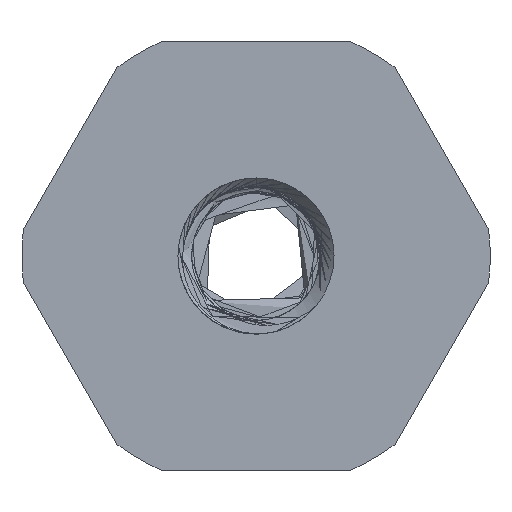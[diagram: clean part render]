
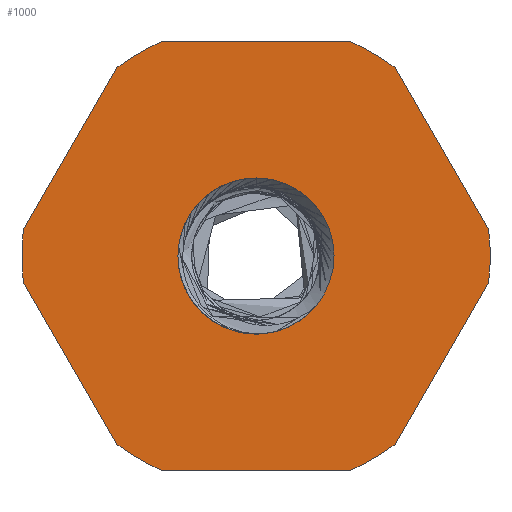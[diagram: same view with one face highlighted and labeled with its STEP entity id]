
A CAD part, front view. The second image highlights one B-rep face of the part: STEP entity #1000.
In plain terms, the highlighted planar face has unit normal (0, -1, 0).
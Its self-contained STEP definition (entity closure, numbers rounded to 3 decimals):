
#83 = VERTEX_POINT ( 'NONE', #4464 ) ;
#88 = ORIENTED_EDGE ( 'NONE', *, *, #10129, .F. ) ;
#136 = EDGE_CURVE ( 'NONE', #12209, #4621, #12009, .T. ) ;
#208 = CARTESIAN_POINT ( 'NONE',  ( 0., 0., 0. ) ) ;
#293 = VECTOR ( 'NONE', #3455, 1000. ) ;
#320 = CARTESIAN_POINT ( 'NONE',  ( 0., 0., 0. ) ) ;
#341 = AXIS2_PLACEMENT_3D ( 'NONE', #5201, #11859, #10942 ) ;
#441 = CIRCLE ( 'NONE', #11210, 2. ) ;
#453 = VECTOR ( 'NONE', #6333, 1000. ) ;
#734 = CIRCLE ( 'NONE', #9358, 6. ) ;
#776 = ORIENTED_EDGE ( 'NONE', *, *, #9186, .F. ) ;
#795 = AXIS2_PLACEMENT_3D ( 'NONE', #208, #6834, #11613 ) ;
#852 = DIRECTION ( 'NONE',  ( 0., 0., 1. ) ) ;
#1000 = ADVANCED_FACE ( 'NONE', ( #4693, #11694 ), #2107, .F. ) ;
#1036 = CIRCLE ( 'NONE', #8159, 2. ) ;
#1135 = DIRECTION ( 'NONE',  ( -0.5, 0., 0.866 ) ) ;
#1140 = DIRECTION ( 'NONE',  ( 0., 0., 1. ) ) ;
#1227 = DIRECTION ( 'NONE',  ( 1., 0., 0. ) ) ;
#1286 = DIRECTION ( 'NONE',  ( 0., 0., 1. ) ) ;
#1356 = DIRECTION ( 'NONE',  ( 0., 1., 0. ) ) ;
#1643 = DIRECTION ( 'NONE',  ( -0.5, 0., -0.866 ) ) ;
#1659 = CARTESIAN_POINT ( 'NONE',  ( 0., 0., 0. ) ) ;
#1718 = VERTEX_POINT ( 'NONE', #7359 ) ;
#1987 = VERTEX_POINT ( 'NONE', #6802 ) ;
#2107 = PLANE ( 'NONE',  #6689 ) ;
#2264 = DIRECTION ( 'NONE',  ( 0.5, 0., 0.866 ) ) ;
#2327 = CIRCLE ( 'NONE', #7523, 6. ) ;
#2619 = DIRECTION ( 'NONE',  ( 0., 0., 1. ) ) ;
#2684 = ORIENTED_EDGE ( 'NONE', *, *, #136, .T. ) ;
#2919 = DIRECTION ( 'NONE',  ( 0., 0., 1. ) ) ;
#2938 = CIRCLE ( 'NONE', #3435, 6. ) ;
#3002 = VERTEX_POINT ( 'NONE', #5440 ) ;
#3041 = CARTESIAN_POINT ( 'NONE',  ( 0., 0., 0. ) ) ;
#3112 = VECTOR ( 'NONE', #1135, 1000. ) ;
#3232 = VECTOR ( 'NONE', #1643, 1000. ) ;
#3251 = VERTEX_POINT ( 'NONE', #11015 ) ;
#3337 = CARTESIAN_POINT ( 'NONE',  ( -3.564, 0., 4.827 ) ) ;
#3355 = EDGE_CURVE ( 'NONE', #5838, #11452, #2327, .T. ) ;
#3435 = AXIS2_PLACEMENT_3D ( 'NONE', #320, #1356, #7973 ) ;
#3446 = VERTEX_POINT ( 'NONE', #3337 ) ;
#3455 = DIRECTION ( 'NONE',  ( 0.5, 0., -0.866 ) ) ;
#3478 = DIRECTION ( 'NONE',  ( 0., 0., 1. ) ) ;
#3564 = EDGE_CURVE ( 'NONE', #4621, #83, #1036, .T. ) ;
#3604 = ORIENTED_EDGE ( 'NONE', *, *, #4480, .F. ) ;
#3852 = ORIENTED_EDGE ( 'NONE', *, *, #11120, .T. ) ;
#4116 = DIRECTION ( 'NONE',  ( 0., 1., 0. ) ) ;
#4120 = LINE ( 'NONE', #7449, #3232 ) ;
#4168 = ORIENTED_EDGE ( 'NONE', *, *, #9325, .F. ) ;
#4215 = AXIS2_PLACEMENT_3D ( 'NONE', #5125, #9816, #1286 ) ;
#4464 = CARTESIAN_POINT ( 'NONE',  ( 0., 0., 2. ) ) ;
#4480 = EDGE_CURVE ( 'NONE', #10682, #5838, #9945, .T. ) ;
#4510 = ORIENTED_EDGE ( 'NONE', *, *, #6864, .F. ) ;
#4621 = VERTEX_POINT ( 'NONE', #5586 ) ;
#4658 = CARTESIAN_POINT ( 'NONE',  ( 0., 0., 0. ) ) ;
#4661 = ORIENTED_EDGE ( 'NONE', *, *, #12142, .F. ) ;
#4693 = FACE_BOUND ( 'NONE', #6959, .T. ) ;
#4697 = EDGE_CURVE ( 'NONE', #5601, #10682, #734, .T. ) ;
#4787 = EDGE_CURVE ( 'NONE', #83, #1718, #441, .T. ) ;
#4797 = ORIENTED_EDGE ( 'NONE', *, *, #11351, .F. ) ;
#4812 = ORIENTED_EDGE ( 'NONE', *, *, #4697, .F. ) ;
#4829 = DIRECTION ( 'NONE',  ( 0., 0., 1. ) ) ;
#5046 = ORIENTED_EDGE ( 'NONE', *, *, #5516, .F. ) ;
#5125 = CARTESIAN_POINT ( 'NONE',  ( 0., 0., 0. ) ) ;
#5201 = CARTESIAN_POINT ( 'NONE',  ( 0., 0., 0. ) ) ;
#5256 = VERTEX_POINT ( 'NONE', #11493 ) ;
#5351 = DIRECTION ( 'NONE',  ( 0., 1., 0. ) ) ;
#5440 = CARTESIAN_POINT ( 'NONE',  ( -5.962, 0., -0.673 ) ) ;
#5441 = CARTESIAN_POINT ( 'NONE',  ( 4.763, 0., 2.75 ) ) ;
#5516 = EDGE_CURVE ( 'NONE', #11452, #3251, #4120, .T. ) ;
#5569 = CARTESIAN_POINT ( 'NONE',  ( 5.962, 0., -0.673 ) ) ;
#5586 = CARTESIAN_POINT ( 'NONE',  ( 0., 0., -2. ) ) ;
#5601 = VERTEX_POINT ( 'NONE', #8158 ) ;
#5611 = LINE ( 'NONE', #6046, #6968 ) ;
#5770 = CARTESIAN_POINT ( 'NONE',  ( 0., 0., 0. ) ) ;
#5838 = VERTEX_POINT ( 'NONE', #8419 ) ;
#5946 = CARTESIAN_POINT ( 'NONE',  ( 3.564, 0., 4.827 ) ) ;
#6031 = CIRCLE ( 'NONE', #11886, 6. ) ;
#6046 = CARTESIAN_POINT ( 'NONE',  ( -4.763, 0., 2.75 ) ) ;
#6333 = DIRECTION ( 'NONE',  ( -1., 0., 0. ) ) ;
#6436 = ORIENTED_EDGE ( 'NONE', *, *, #9432, .F. ) ;
#6443 = CARTESIAN_POINT ( 'NONE',  ( 0., 0., 0. ) ) ;
#6498 = CIRCLE ( 'NONE', #341, 6. ) ;
#6567 = CARTESIAN_POINT ( 'NONE',  ( 0., 0., 0. ) ) ;
#6650 = DIRECTION ( 'NONE',  ( 0., 1., 0. ) ) ;
#6689 = AXIS2_PLACEMENT_3D ( 'NONE', #10760, #8843, #1140 ) ;
#6802 = CARTESIAN_POINT ( 'NONE',  ( -5.962, 0., 0.673 ) ) ;
#6834 = DIRECTION ( 'NONE',  ( 0., 1., 0. ) ) ;
#6864 = EDGE_CURVE ( 'NONE', #3002, #1987, #9022, .T. ) ;
#6952 = CIRCLE ( 'NONE', #4215, 2. ) ;
#6959 = EDGE_LOOP ( 'NONE', ( #3852, #2684, #10435, #11667 ) ) ;
#6968 = VECTOR ( 'NONE', #2264, 1000. ) ;
#7125 = LINE ( 'NONE', #12097, #453 ) ;
#7359 = CARTESIAN_POINT ( 'NONE',  ( 1.553, 0., -1.261 ) ) ;
#7371 = ORIENTED_EDGE ( 'NONE', *, *, #8950, .F. ) ;
#7381 = DIRECTION ( 'NONE',  ( 0., 1., 0. ) ) ;
#7429 = LINE ( 'NONE', #9718, #8460 ) ;
#7449 = CARTESIAN_POINT ( 'NONE',  ( 4.763, 0., -2.75 ) ) ;
#7523 = AXIS2_PLACEMENT_3D ( 'NONE', #3041, #4116, #10618 ) ;
#7565 = CARTESIAN_POINT ( 'NONE',  ( -4.763, 0., -2.75 ) ) ;
#7973 = DIRECTION ( 'NONE',  ( 0., 0., 1. ) ) ;
#8159 = AXIS2_PLACEMENT_3D ( 'NONE', #4658, #11506, #852 ) ;
#8158 = CARTESIAN_POINT ( 'NONE',  ( 2.398, 0., 5.5 ) ) ;
#8338 = EDGE_LOOP ( 'NONE', ( #7371, #88, #776, #4510, #6436, #4797, #4168, #4661, #5046, #11814, #3604, #4812 ) ) ;
#8419 = CARTESIAN_POINT ( 'NONE',  ( 5.962, 0., 0.673 ) ) ;
#8460 = VECTOR ( 'NONE', #1227, 1000. ) ;
#8843 = DIRECTION ( 'NONE',  ( 0., 1., 0. ) ) ;
#8930 = AXIS2_PLACEMENT_3D ( 'NONE', #5770, #6650, #2919 ) ;
#8950 = EDGE_CURVE ( 'NONE', #9921, #5601, #7429, .T. ) ;
#9022 = CIRCLE ( 'NONE', #795, 6. ) ;
#9186 = EDGE_CURVE ( 'NONE', #1987, #3446, #5611, .T. ) ;
#9325 = EDGE_CURVE ( 'NONE', #5256, #9494, #7125, .T. ) ;
#9358 = AXIS2_PLACEMENT_3D ( 'NONE', #1659, #5351, #3478 ) ;
#9432 = EDGE_CURVE ( 'NONE', #10134, #3002, #11446, .T. ) ;
#9494 = VERTEX_POINT ( 'NONE', #10589 ) ;
#9718 = CARTESIAN_POINT ( 'NONE',  ( 0., 0., 5.5 ) ) ;
#9816 = DIRECTION ( 'NONE',  ( 0., 1., 0. ) ) ;
#9921 = VERTEX_POINT ( 'NONE', #11469 ) ;
#9945 = LINE ( 'NONE', #5441, #293 ) ;
#10129 = EDGE_CURVE ( 'NONE', #3446, #9921, #6498, .T. ) ;
#10134 = VERTEX_POINT ( 'NONE', #10986 ) ;
#10435 = ORIENTED_EDGE ( 'NONE', *, *, #3564, .T. ) ;
#10449 = DIRECTION ( 'NONE',  ( 0., 1., 0. ) ) ;
#10589 = CARTESIAN_POINT ( 'NONE',  ( -2.398, 0., -5.5 ) ) ;
#10618 = DIRECTION ( 'NONE',  ( 0., 0., 1. ) ) ;
#10682 = VERTEX_POINT ( 'NONE', #5946 ) ;
#10684 = CARTESIAN_POINT ( 'NONE',  ( 0.239, 0., -1.986 ) ) ;
#10760 = CARTESIAN_POINT ( 'NONE',  ( 0., 0., 0. ) ) ;
#10942 = DIRECTION ( 'NONE',  ( 0., 0., 1. ) ) ;
#10986 = CARTESIAN_POINT ( 'NONE',  ( -3.564, 0., -4.827 ) ) ;
#11015 = CARTESIAN_POINT ( 'NONE',  ( 3.564, 0., -4.827 ) ) ;
#11120 = EDGE_CURVE ( 'NONE', #1718, #12209, #6952, .T. ) ;
#11210 = AXIS2_PLACEMENT_3D ( 'NONE', #6567, #10449, #4829 ) ;
#11351 = EDGE_CURVE ( 'NONE', #9494, #10134, #6031, .T. ) ;
#11446 = LINE ( 'NONE', #7565, #3112 ) ;
#11452 = VERTEX_POINT ( 'NONE', #5569 ) ;
#11469 = CARTESIAN_POINT ( 'NONE',  ( -2.398, 0., 5.5 ) ) ;
#11493 = CARTESIAN_POINT ( 'NONE',  ( 2.398, 0., -5.5 ) ) ;
#11506 = DIRECTION ( 'NONE',  ( 0., 1., 0. ) ) ;
#11613 = DIRECTION ( 'NONE',  ( 0., 0., 1. ) ) ;
#11667 = ORIENTED_EDGE ( 'NONE', *, *, #4787, .T. ) ;
#11694 = FACE_OUTER_BOUND ( 'NONE', #8338, .T. ) ;
#11814 = ORIENTED_EDGE ( 'NONE', *, *, #3355, .F. ) ;
#11859 = DIRECTION ( 'NONE',  ( 0., 1., 0. ) ) ;
#11886 = AXIS2_PLACEMENT_3D ( 'NONE', #6443, #7381, #2619 ) ;
#12009 = CIRCLE ( 'NONE', #8930, 2. ) ;
#12097 = CARTESIAN_POINT ( 'NONE',  ( 0., 0., -5.5 ) ) ;
#12142 = EDGE_CURVE ( 'NONE', #3251, #5256, #2938, .T. ) ;
#12209 = VERTEX_POINT ( 'NONE', #10684 ) ;
